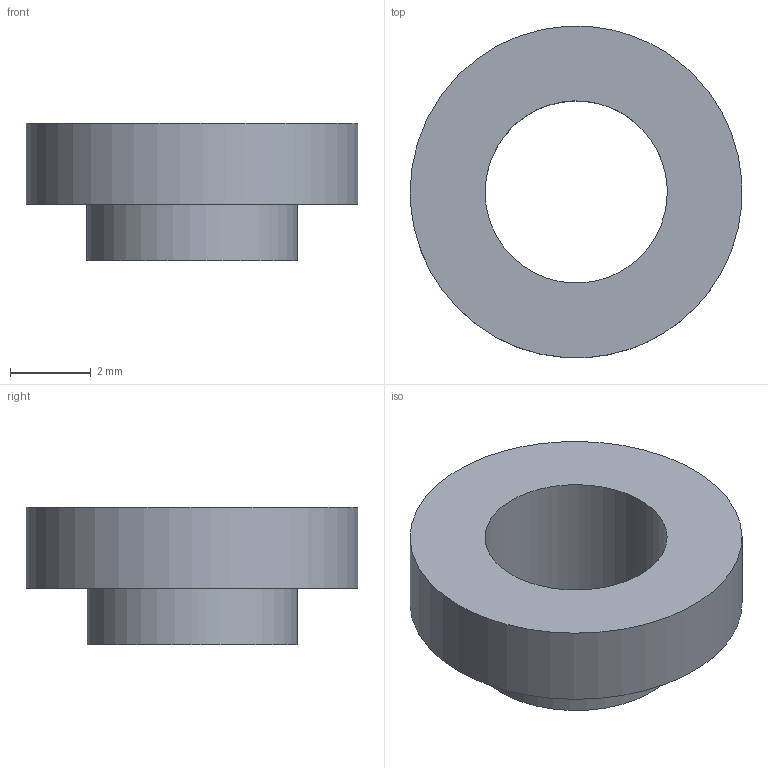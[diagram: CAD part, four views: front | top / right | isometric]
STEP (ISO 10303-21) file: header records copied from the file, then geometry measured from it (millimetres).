
FILE_DESCRIPTION(('FreeCAD Model'),'2;1');
FILE_NAME('Open CASCADE Shape Model','2026-03-20T17:23:05',('Author'),( ''),'Open CASCADE STEP processor 7.8','FreeCAD','Unknown');
FILE_SCHEMA(('AP242_MANAGED_MODEL_BASED_3D_ENGINEERING_MIM_LF. {1 0 10303 442 1 1 4 }'));
Length unit declared in the file: millimetre
Products named in the file (1): 1_transformed
Bounding box: 8.19 x 8.18 x 3.4 mm (x, y, z)
Volume: 82 mm3; surface area: 196.6 mm2
Topology: 1 solids, 1 shells, 6 faces, 9 edges, 6 vertices
Faces by surface type: bspline 6
Entity records: 201 total; most frequent: CARTESIAN_POINT 109, ORIENTED_EDGE 18, FACE_BOUND 9, EDGE_LOOP 9, EDGE_CURVE 9, ADVANCED_FACE 6, VERTEX_POINT 6, B_SPLINE_CURVE_WITH_KNOTS 3
